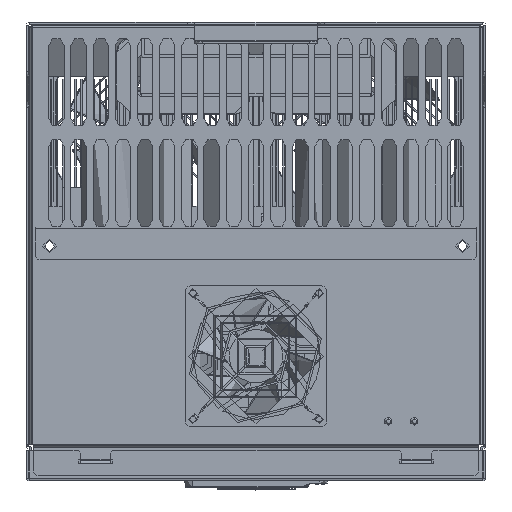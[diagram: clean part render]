
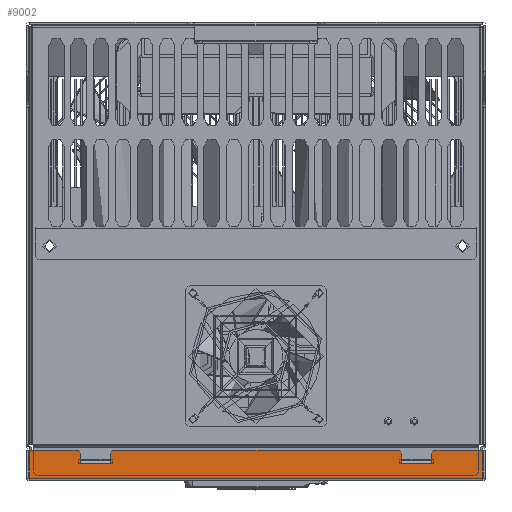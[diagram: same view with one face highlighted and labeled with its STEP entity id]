
A CAD part, front view. The second image highlights one B-rep face of the part: STEP entity #9002.
In plain terms, the highlighted planar face has unit normal (0, -1, 0).
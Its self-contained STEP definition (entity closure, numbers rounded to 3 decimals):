
#9002=ADVANCED_FACE('',(#29280),#29282,.F.);
#29280=FACE_BOUND('',#29281,.T.);
#29281=EDGE_LOOP('',(#50027,#50028,#50029,#50030,#50031,#50032,#50033,#50034,#50035,
#50036,#50037,#50038,#50039,#50040,#50041,#50042));
#29282=PLANE('',#29283);
#29283=AXIS2_PLACEMENT_3D('',#29284,#29285,#29286);
#29284=CARTESIAN_POINT('',(-592.462,116.499,-678.68));
#29285=DIRECTION('',(0.,1.,0.));
#29286=DIRECTION('',(0.,0.,1.));
#50027=ORIENTED_EDGE('',*,*,#63386,.F.);
#50028=ORIENTED_EDGE('',*,*,#63388,.T.);
#50029=ORIENTED_EDGE('',*,*,#63380,.T.);
#50030=ORIENTED_EDGE('',*,*,#63389,.T.);
#50031=ORIENTED_EDGE('',*,*,#63378,.F.);
#50032=ORIENTED_EDGE('',*,*,#63390,.T.);
#50033=ORIENTED_EDGE('',*,*,#63225,.T.);
#50034=ORIENTED_EDGE('',*,*,#63391,.T.);
#50035=ORIENTED_EDGE('',*,*,#63219,.F.);
#50036=ORIENTED_EDGE('',*,*,#63216,.F.);
#50037=ORIENTED_EDGE('',*,*,#63208,.F.);
#50038=ORIENTED_EDGE('',*,*,#63392,.T.);
#50039=ORIENTED_EDGE('',*,*,#63204,.T.);
#50040=ORIENTED_EDGE('',*,*,#63201,.T.);
#50041=ORIENTED_EDGE('',*,*,#63196,.F.);
#50042=ORIENTED_EDGE('',*,*,#63193,.F.);
#63193=EDGE_CURVE('',#75740,#75741,#75742,.T.);
#63196=EDGE_CURVE('',#75741,#75745,#75746,.T.);
#63201=EDGE_CURVE('',#75754,#75745,#75755,.T.);
#63204=EDGE_CURVE('',#75759,#75754,#75760,.T.);
#63208=EDGE_CURVE('',#75765,#75767,#75768,.T.);
#63216=EDGE_CURVE('',#75767,#75782,#75783,.T.);
#63219=EDGE_CURVE('',#75782,#75786,#75787,.T.);
#63225=EDGE_CURVE('',#75798,#75796,#75799,.T.);
#63378=EDGE_CURVE('',#75804,#76052,#76053,.T.);
#63380=EDGE_CURVE('',#76055,#76056,#76057,.T.);
#63386=EDGE_CURVE('',#76066,#75740,#76068,.T.);
#63388=EDGE_CURVE('',#76066,#76055,#76070,.T.);
#63389=EDGE_CURVE('',#76056,#76052,#76071,.T.);
#63390=EDGE_CURVE('',#75804,#75798,#76072,.T.);
#63391=EDGE_CURVE('',#75796,#75786,#76073,.T.);
#63392=EDGE_CURVE('',#75765,#75759,#76074,.T.);
#75740=VERTEX_POINT('',#105341);
#75741=VERTEX_POINT('',#105342);
#75742=LINE('',#105343,#105344);
#75745=VERTEX_POINT('',#105354);
#75746=LINE('',#105355,#105356);
#75754=VERTEX_POINT('',#105374);
#75755=CIRCLE('',#105375,2.);
#75759=VERTEX_POINT('',#105386);
#75760=LINE('',#105387,#105388);
#75765=VERTEX_POINT('',#105398);
#75767=VERTEX_POINT('',#105402);
#75768=LINE('',#105403,#105404);
#75782=VERTEX_POINT('',#105433);
#75783=LINE('',#105434,#105435);
#75786=VERTEX_POINT('',#105445);
#75787=LINE('',#105446,#105447);
#75796=VERTEX_POINT('',#105465);
#75798=VERTEX_POINT('',#105469);
#75799=LINE('',#105470,#105471);
#75804=VERTEX_POINT('',#105482);
#76052=VERTEX_POINT('',#106067);
#76053=LINE('',#106068,#106069);
#76055=VERTEX_POINT('',#106075);
#76056=VERTEX_POINT('',#106076);
#76057=LINE('',#106077,#106078);
#76066=VERTEX_POINT('',#106096);
#76068=LINE('',#106100,#106101);
#76070=CIRCLE('',#106106,2.);
#76071=LINE('',#106110,#106111);
#76072=LINE('',#106113,#106114);
#76073=CIRCLE('',#106116,2.);
#76074=CIRCLE('',#106120,2.);
#105341=CARTESIAN_POINT('',(-707.462,116.499,-667.18));
#105342=CARTESIAN_POINT('',(-687.462,116.499,-667.18));
#105343=CARTESIAN_POINT('',(-707.462,116.499,-667.18));
#105344=VECTOR('',#105345,1.);
#105345=DIRECTION('',(1.,0.,0.));
#105354=CARTESIAN_POINT('',(-687.462,116.499,-660.68));
#105355=CARTESIAN_POINT('',(-687.462,116.499,-667.18));
#105356=VECTOR('',#105357,1.);
#105357=DIRECTION('',(0.,0.,1.));
#105374=CARTESIAN_POINT('',(-685.462,116.499,-658.68));
#105375=AXIS2_PLACEMENT_3D('',#105376,#105377,#105378);
#105376=CARTESIAN_POINT('',(-685.462,116.499,-660.68));
#105377=DIRECTION('',(0.,-1.,0.));
#105378=DIRECTION('',(0.,0.,1.));
#105386=CARTESIAN_POINT('',(-499.462,116.499,-658.68));
#105387=CARTESIAN_POINT('',(-499.462,116.499,-658.68));
#105388=VECTOR('',#105389,1.);
#105389=DIRECTION('',(-1.,0.,0.));
#105398=CARTESIAN_POINT('',(-497.462,116.499,-660.68));
#105402=CARTESIAN_POINT('',(-497.462,116.499,-667.18));
#105403=CARTESIAN_POINT('',(-497.462,116.499,-660.68));
#105404=VECTOR('',#105405,1.);
#105405=DIRECTION('',(0.,0.,-1.));
#105433=CARTESIAN_POINT('',(-477.462,116.499,-667.18));
#105434=CARTESIAN_POINT('',(-497.462,116.499,-667.18));
#105435=VECTOR('',#105436,1.);
#105436=DIRECTION('',(1.,0.,0.));
#105445=CARTESIAN_POINT('',(-477.462,116.499,-660.68));
#105446=CARTESIAN_POINT('',(-477.462,116.499,-667.18));
#105447=VECTOR('',#105448,1.);
#105448=DIRECTION('',(0.,0.,1.));
#105465=CARTESIAN_POINT('',(-475.462,116.499,-658.68));
#105469=CARTESIAN_POINT('',(-444.162,116.499,-658.68));
#105470=CARTESIAN_POINT('',(-444.162,116.499,-658.68));
#105471=VECTOR('',#105472,1.);
#105472=DIRECTION('',(-1.,0.,0.));
#105482=CARTESIAN_POINT('',(-444.162,116.499,-676.98));
#106067=CARTESIAN_POINT('',(-740.762,116.499,-676.98));
#106068=CARTESIAN_POINT('',(-444.162,116.499,-676.98));
#106069=VECTOR('',#106070,1.);
#106070=DIRECTION('',(-1.,0.,0.));
#106075=CARTESIAN_POINT('',(-709.462,116.499,-658.68));
#106076=CARTESIAN_POINT('',(-740.762,116.499,-658.68));
#106077=CARTESIAN_POINT('',(-709.462,116.499,-658.68));
#106078=VECTOR('',#106079,1.);
#106079=DIRECTION('',(-1.,0.,0.));
#106096=CARTESIAN_POINT('',(-707.462,116.499,-660.68));
#106100=CARTESIAN_POINT('',(-707.462,116.499,-660.68));
#106101=VECTOR('',#106102,1.);
#106102=DIRECTION('',(0.,0.,-1.));
#106106=AXIS2_PLACEMENT_3D('',#106107,#106108,#106109);
#106107=CARTESIAN_POINT('',(-709.462,116.499,-660.68));
#106108=DIRECTION('',(0.,-1.,0.));
#106109=DIRECTION('',(1.,0.,0.));
#106110=CARTESIAN_POINT('',(-740.762,116.499,-658.68));
#106111=VECTOR('',#106112,1.);
#106112=DIRECTION('',(0.,0.,-1.));
#106113=CARTESIAN_POINT('',(-444.162,116.499,-676.98));
#106114=VECTOR('',#106115,1.);
#106115=DIRECTION('',(0.,0.,1.));
#106116=AXIS2_PLACEMENT_3D('',#106117,#106118,#106119);
#106117=CARTESIAN_POINT('',(-475.462,116.499,-660.68));
#106118=DIRECTION('',(0.,-1.,0.));
#106119=DIRECTION('',(0.,0.,1.));
#106120=AXIS2_PLACEMENT_3D('',#106121,#106122,#106123);
#106121=CARTESIAN_POINT('',(-499.462,116.499,-660.68));
#106122=DIRECTION('',(0.,-1.,0.));
#106123=DIRECTION('',(1.,0.,0.));
